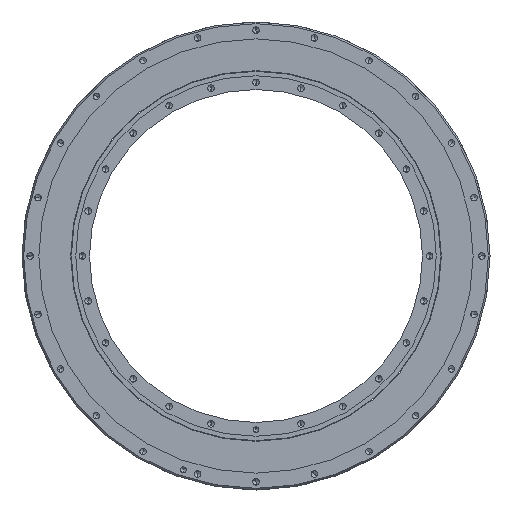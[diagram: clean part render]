
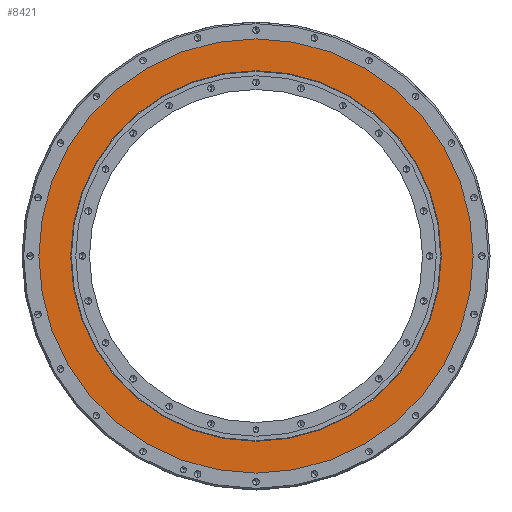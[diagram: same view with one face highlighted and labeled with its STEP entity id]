
A CAD part, front view. The second image highlights one B-rep face of the part: STEP entity #8421.
In plain terms, the highlighted planar face has unit normal (0, -1, 0).
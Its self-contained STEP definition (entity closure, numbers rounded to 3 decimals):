
#253 = DIRECTION ( 'NONE',  ( 0., 0., -1. ) ) ;
#617 = VERTEX_POINT ( 'NONE', #10603 ) ;
#1078 = EDGE_LOOP ( 'NONE', ( #11656, #6605 ) ) ;
#2381 = DIRECTION ( 'NONE',  ( 0., -1., 0. ) ) ;
#2539 = CARTESIAN_POINT ( 'NONE',  ( 0., 1., 192. ) ) ;
#2712 = FACE_OUTER_BOUND ( 'NONE', #1078, .T. ) ;
#2782 = CARTESIAN_POINT ( 'NONE',  ( 192., 1., 0. ) ) ;
#2892 = VERTEX_POINT ( 'NONE', #2539 ) ;
#3190 = CARTESIAN_POINT ( 'NONE',  ( 0., 1., -192. ) ) ;
#3477 = AXIS2_PLACEMENT_3D ( 'NONE', #5252, #5098, #6406 ) ;
#3874 = AXIS2_PLACEMENT_3D ( 'NONE', #11148, #7793, #5380 ) ;
#4322 = VERTEX_POINT ( 'NONE', #15402 ) ;
#4569 = DIRECTION ( 'NONE',  ( 0., 0., -1. ) ) ;
#4687 = EDGE_CURVE ( 'NONE', #7280, #2892, #15042, .T. ) ;
#4967 = EDGE_CURVE ( 'NONE', #617, #4322, #5688, .T. ) ;
#5098 = DIRECTION ( 'NONE',  ( 0., -1., 0. ) ) ;
#5252 = CARTESIAN_POINT ( 'NONE',  ( 0., 1., 0. ) ) ;
#5380 = DIRECTION ( 'NONE',  ( 0., 0., -1. ) ) ;
#5688 = CIRCLE ( 'NONE', #8278, 225. ) ;
#6406 = DIRECTION ( 'NONE',  ( 0., 0., -1. ) ) ;
#6605 = ORIENTED_EDGE ( 'NONE', *, *, #4967, .T. ) ;
#6782 = CIRCLE ( 'NONE', #15327, 192. ) ;
#7051 = EDGE_LOOP ( 'NONE', ( #14902, #15322 ) ) ;
#7280 = VERTEX_POINT ( 'NONE', #3190 ) ;
#7793 = DIRECTION ( 'NONE',  ( 0., -1., 0. ) ) ;
#8031 = CIRCLE ( 'NONE', #3874, 225. ) ;
#8244 = CARTESIAN_POINT ( 'NONE',  ( 0., 1., 0. ) ) ;
#8278 = AXIS2_PLACEMENT_3D ( 'NONE', #10764, #8509, #11967 ) ;
#8421 = ADVANCED_FACE ( 'NONE', ( #2712, #11087 ), #9905, .T. ) ;
#8509 = DIRECTION ( 'NONE',  ( 0., -1., 0. ) ) ;
#9311 = EDGE_CURVE ( 'NONE', #2892, #7280, #6782, .T. ) ;
#9905 = PLANE ( 'NONE',  #15315 ) ;
#10603 = CARTESIAN_POINT ( 'NONE',  ( 0., 1., 225. ) ) ;
#10764 = CARTESIAN_POINT ( 'NONE',  ( 0., 1., 0. ) ) ;
#11087 = FACE_BOUND ( 'NONE', #7051, .T. ) ;
#11101 = DIRECTION ( 'NONE',  ( 0., -1., 0. ) ) ;
#11148 = CARTESIAN_POINT ( 'NONE',  ( 0., 1., 0. ) ) ;
#11656 = ORIENTED_EDGE ( 'NONE', *, *, #12130, .T. ) ;
#11967 = DIRECTION ( 'NONE',  ( 0., 0., -1. ) ) ;
#12130 = EDGE_CURVE ( 'NONE', #4322, #617, #8031, .T. ) ;
#14902 = ORIENTED_EDGE ( 'NONE', *, *, #4687, .F. ) ;
#15042 = CIRCLE ( 'NONE', #3477, 192. ) ;
#15315 = AXIS2_PLACEMENT_3D ( 'NONE', #2782, #11101, #253 ) ;
#15322 = ORIENTED_EDGE ( 'NONE', *, *, #9311, .F. ) ;
#15327 = AXIS2_PLACEMENT_3D ( 'NONE', #8244, #2381, #4569 ) ;
#15402 = CARTESIAN_POINT ( 'NONE',  ( 0., 1., -225. ) ) ;
